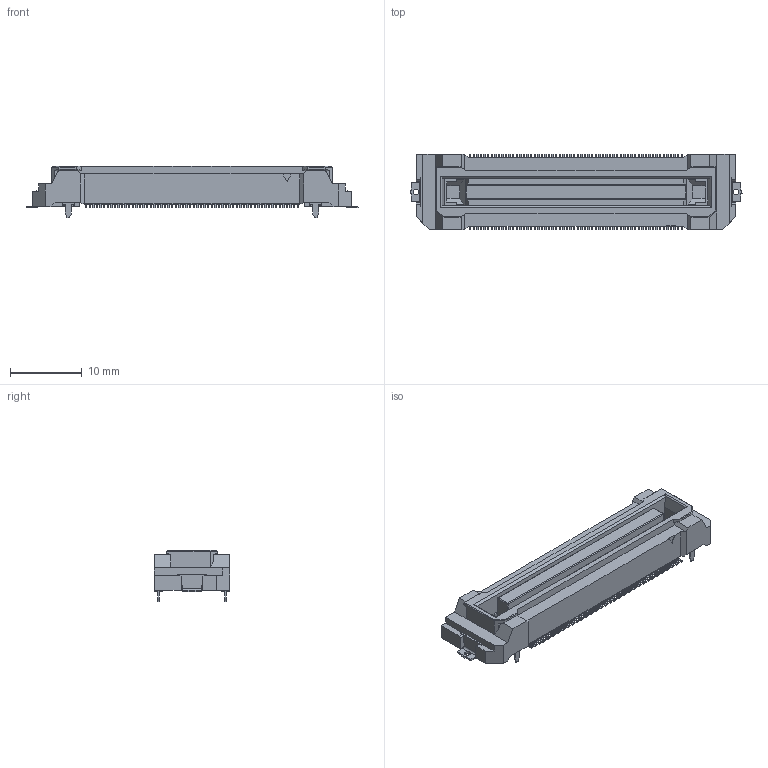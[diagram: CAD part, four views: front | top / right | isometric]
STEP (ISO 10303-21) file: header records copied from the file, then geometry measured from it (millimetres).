
FILE_DESCRIPTION(('Creo Elements/Direct Modeling STEP Export'),'2;1');
FILE_NAME('FX23L-120S-0.5SV.stp','2016-02-29T17:21:38',(''),(''),'Creo Elements/Direct Modeling STEP processor for AP214 (Solid Model)','Creo Elements/Direct Modeling 18.1E 22-Nov-2013 (C) Parametric Technology GmbH','');
FILE_SCHEMA(('AUTOMOTIVE_DESIGN { 1 0 10303 214 1 1 1 1 }'));
Products named in the file (1): FX23L-120S-0.5SV
Bounding box: 46.3 x 10.5 x 7.15 mm (x, y, z)
Volume: 1724.9 mm3; surface area: 2284 mm2
Topology: 1 solids, 1 shells, 2940 faces, 8152 edges, 5455 vertices
Faces by surface type: plane 2420, cylinder 516, sphere 4
Entity records: 93089 total; most frequent: CARTESIAN_POINT 16640, ORIENTED_EDGE 16296, DIRECTION 15032, EDGE_CURVE 8148, VECTOR 7116, LINE 7116, VERTEX_POINT 5455, AXIS2_PLACEMENT_3D 3958
